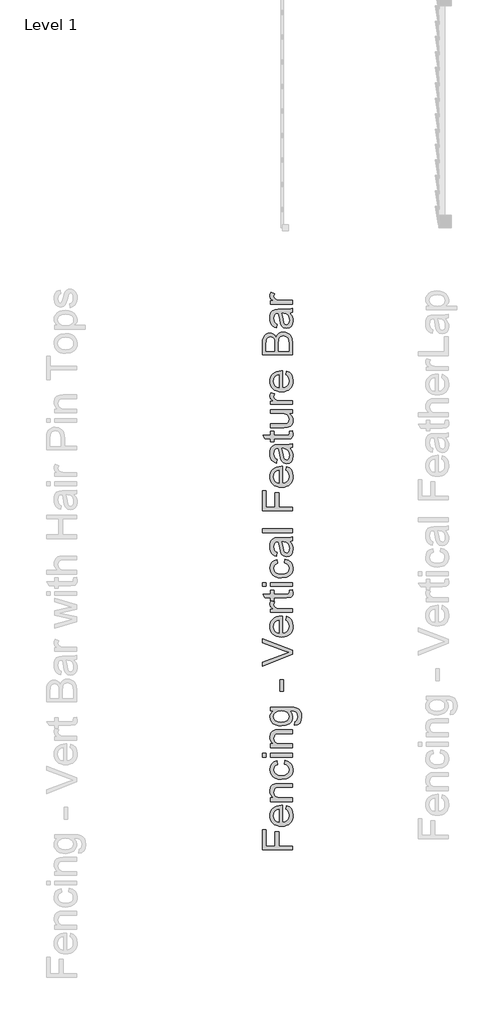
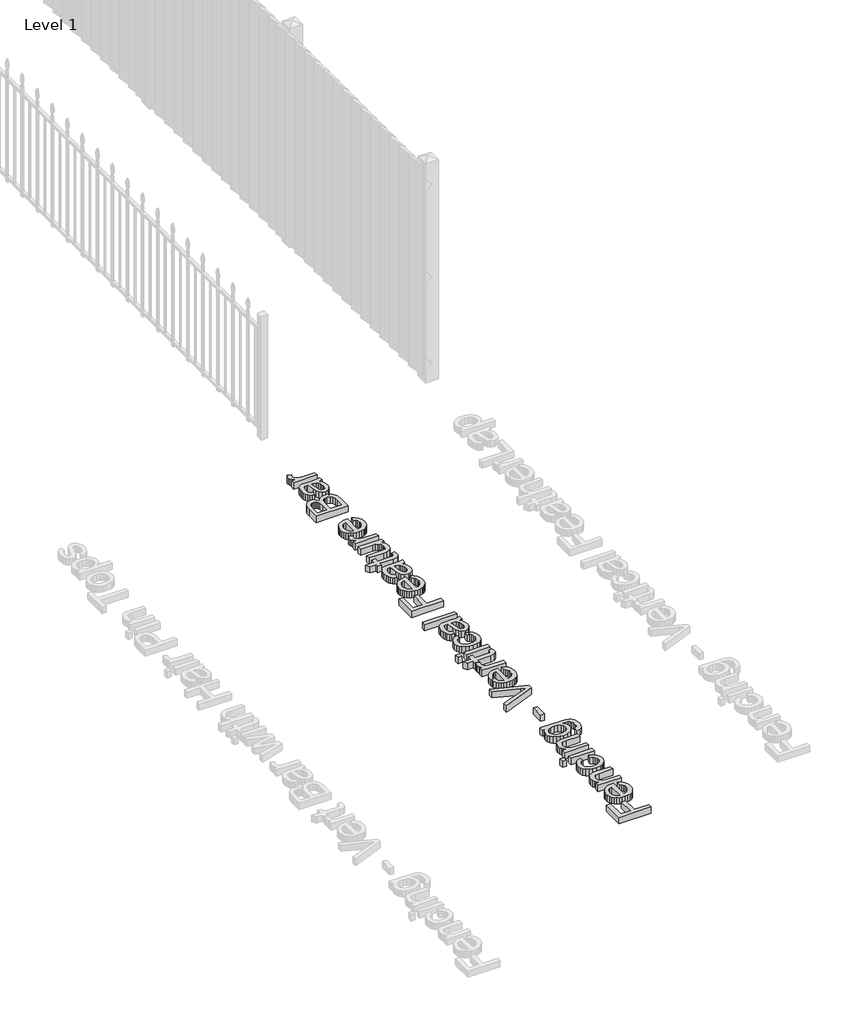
# One storey, part 3 of 7: 1 proxy.
"""IFC4 building model written with IfcOpenShell, lengths in millimetres."""

from ifc_helpers import new_model, si_unit, origin, origin_with_axes, place, context, project, spatial, polyline, outline, extrude, element, save

model = new_model("IFC4")

# Units and contexts
model_context = context("Model", 3, world=origin())
ifc_project = project(units=[si_unit("LENGTHUNIT", "METRE", prefix="MILLI")], contexts=[model_context])

# Site, building, storey
site = spatial("IfcSite", under=ifc_project)
building = spatial("IfcBuilding", under=site)
storey = spatial("IfcBuildingStorey", under=building, Name="Level 1", Elevation=0.0)

# Proxy
placement = place(None, origin())
element("IfcBuildingElementProxy", 1, Name="250mm Arial", ObjectType="250mm Arial", at=placement, inside=storey, context=model_context, shape_type="SweptSolid", body=[
    extrude(outline(polyline([(46257.1337932, -61539.7653793), (46010.9799471, -61539.7653793), (46010.9799471, -61374.380764), (46041.7491778, -61374.380764), (46041.7491778, -61508.9961486), (46114.8261009, -61508.9961486), (46114.8261009, -61393.6115332), (46145.5953317, -61393.6115332), (46145.5953317, -61508.9961486), (46257.1337932, -61508.9961486), (46257.1337932, -61539.7653793)])), origin_with_axes(), (0.0, 0.0, 1.0), 50.8),
    extrude(outline(polyline([(46203.2876394, -61209.3567255), (46207.1337932, -61179.1884563), (46229.8651634, -61190.0583481), (46246.8573509, -61207.4036005), (46257.449298, -61230.8335885), (46260.9799471, -61259.957687), (46259.4568852, -61279.0494839), (46254.8876995, -61296.0604515), (46247.27239, -61310.9905897), (46236.6109567, -61323.8398986), (46223.2001244, -61334.172681), (46207.3366177, -61341.5532399), (46189.0204369, -61345.9815753), (46168.2515817, -61347.457687), (46146.7784747, -61345.9665512), (46127.8519423, -61341.4931438), (46111.4719843, -61334.0374647), (46097.6386009, -61323.599514), (46086.6485168, -61310.7840091), (46078.7984567, -61296.1956678), (46074.0884206, -61279.8344899), (46072.5184086, -61261.7004755), (46074.0846646, -61244.1505206), (46078.7834327, -61228.2795019), (46086.6147127, -61214.0874196), (46097.5785048, -61201.5742736), (46111.3818401, -61191.3598054), (46127.73175, -61184.0637567), (46146.6282343, -61179.6861275), (46168.0712932, -61178.2269178), (46176.3645625, -61178.4072063), (46176.3645625, -61316.6884563), (46199.3964134, -61311.3624346), (46216.3285048, -61298.990139), (46226.7401634, -61281.1340692), (46230.2107163, -61259.3567255), (46228.6031442, -61242.9805236), (46223.7804278, -61229.1884563), (46215.4420865, -61217.9805236), (46203.2876394, -61209.3567255)]), holes=[polyline([(46145.5953317, -61316.6884563), (46145.5953317, -61208.9961486), (46129.3393221, -61213.1578072), (46117.7107163, -61221.3158601), (46106.8934086, -61239.254562), (46103.2876394, -61261.8206678), (46106.1647427, -61282.5613529), (46114.7960528, -61299.7112928), (46128.2500793, -61311.6328673), (46145.5953317, -61316.6884563)])]), origin_with_axes(), (0.0, 0.0, 1.0), 50.8),
    extrude(outline(polyline([(46257.1337932, -61147.457687), (46076.3645625, -61147.457687), (46076.3645625, -61116.6884563), (46101.6049471, -61116.6884563), (46088.8795865, -61105.9988529), (46079.7900432, -61093.160812), (46074.3363173, -61078.1743337), (46072.5184086, -61061.0394178), (46078.3777836, -61031.9829274), (46085.153625, -61020.3993938), (46093.762399, -61012.1511966), (46116.3886009, -61002.926437), (46146.1361971, -61001.3038409), (46257.1337932, -61001.3038409), (46257.1337932, -61032.0730716), (46150.2828317, -61032.0730716), (46123.059274, -61035.6187447), (46114.9538052, -61040.5240933), (46108.6662452, -61048.1487928), (46103.2876394, -61069.2725909), (46106.3074711, -61087.293925), (46115.3669663, -61102.6560043), (46132.8699711, -61113.1803433), (46161.2203317, -61116.6884563), (46257.1337932, -61116.6884563), (46257.1337932, -61147.457687)])), origin_with_axes(), (0.0, 0.0, 1.0), 50.8),
    extrude(outline(polyline([(46191.7491778, -60843.6115332), (46195.5953317, -60812.8423024), (46222.9616177, -60821.4210284), (46243.6422067, -60837.5418216), (46256.645512, -60859.6872543), (46260.9799471, -60886.3398986), (46259.4681532, -60903.5968847), (46254.9327716, -60919.0697664), (46247.3738022, -60932.7585434), (46236.7912452, -60944.6632159), (46223.3841688, -60954.2992585), (46207.3516418, -60961.1821462), (46167.4102355, -60966.6884563), (46140.0289254, -60964.3371942), (46116.2984567, -60957.2834082), (46097.1352956, -60945.4144178), (46083.4559086, -60928.6175428), (46075.2527836, -60908.5228914), (46072.5184086, -60886.7605716), (46076.2744182, -60860.7614731), (46087.5424471, -60839.9757159), (46105.7215336, -60825.0643577), (46130.2107163, -60816.6884563), (46134.0568702, -60847.457687), (46120.6328918, -60853.0391173), (46111.0099952, -60861.7305236), (46105.2182283, -60873.0511366), (46103.2876394, -60886.520187), (46107.0887211, -60906.4045019), (46118.4919663, -60922.1872543), (46138.1133605, -60932.4862327), (46166.5688894, -60935.9192255), (46195.4075312, -60932.5613529), (46215.0965336, -60922.4877351), (46226.4321706, -60906.9904394), (46230.2107163, -60887.3615332), (46227.8519423, -60871.4285404), (46220.7756202, -60858.365139), (46208.8014615, -60848.8624346), (46191.7491778, -60843.6115332)])), origin_with_axes(), (0.0, 0.0, 1.0), 50.8),
    extrude(outline(polyline([(46041.7491778, -60785.9192255), (46010.9799471, -60785.9192255), (46010.9799471, -60755.1499947), (46041.7491778, -60755.1499947), (46041.7491778, -60785.9192255)])), origin_with_axes(), (0.0, 0.0, 1.0), 50.8),
    extrude(outline(polyline([(46257.1337932, -60785.9192255), (46076.3645625, -60785.9192255), (46076.3645625, -60755.1499947), (46257.1337932, -60755.1499947), (46257.1337932, -60785.9192255)])), origin_with_axes(), (0.0, 0.0, 1.0), 50.8),
    extrude(outline(polyline([(46257.1337932, -60708.9961486), (46076.3645625, -60708.9961486), (46076.3645625, -60678.2269178), (46101.6049471, -60678.2269178), (46088.8795865, -60667.5373144), (46079.7900432, -60654.6992736), (46074.3363173, -60639.7127952), (46072.5184086, -60622.5778793), (46078.3777836, -60593.521389), (46085.153625, -60581.9378553), (46093.762399, -60573.6896582), (46116.3886009, -60564.4648986), (46146.1361971, -60562.8423024), (46257.1337932, -60562.8423024), (46257.1337932, -60593.6115332), (46150.2828317, -60593.6115332), (46123.059274, -60597.1572063), (46114.9538052, -60602.0625548), (46108.6662452, -60609.6872543), (46103.2876394, -60630.8110524), (46106.3074711, -60648.8323866), (46115.3669663, -60664.1944659), (46132.8699711, -60674.7188048), (46161.2203317, -60678.2269178), (46257.1337932, -60678.2269178), (46257.1337932, -60708.9961486)])), origin_with_axes(), (0.0, 0.0, 1.0), 50.8),
    extrude(outline(polyline([(46272.5184086, -60528.2269178), (46276.3645625, -60497.457687), (46285.9799471, -60494.0622543), (46292.590524, -60487.4817255), (46297.7287452, -60474.5460284), (46299.4414855, -60457.613937), (46297.5033846, -60439.5550428), (46291.6890817, -60426.1235524), (46282.3741778, -60416.8086486), (46269.934274, -60411.099514), (46234.0568702, -60408.9961486), (46251.3645625, -60430.660812), (46257.1337932, -60457.0730716), (46255.4548569, -60473.9431888), (46250.418048, -60488.7963289), (46242.0233665, -60501.6324917), (46230.2708125, -60512.4516774), (46200.7335528, -60527.1677231), (46165.8477355, -60532.0730716), (46141.0054879, -60529.87205), (46118.1614375, -60523.2689851), (46098.8029639, -60512.4967495), (46084.4174471, -60497.7882159), (46075.4931682, -60479.6466894), (46072.5184086, -60458.5754755), (46074.2011009, -60444.1862027), (46079.2491778, -60431.1265572), (46087.6626394, -60419.3965392), (46099.4414855, -60408.9961486), (46076.3645625, -60408.9961486), (46076.3645625, -60378.2269178), (46232.434274, -60378.2269178), (46268.4694302, -60380.3302832), (46292.199899, -60386.6403793), (46307.9375793, -60397.5102712), (46319.9943702, -60413.2930236), (46327.6566298, -60433.6430837), (46330.2107163, -60458.2148986), (46326.6124591, -60486.8432039), (46315.8176875, -60509.3867736), (46297.7963533, -60523.8474106), (46272.5184086, -60528.2269178)]), holes=[polyline([(46163.7443702, -60501.3038409), (46191.9670264, -60498.0210885), (46211.3705721, -60488.1728313), (46222.6160649, -60473.3666414), (46226.3645625, -60455.2100909), (46222.6386009, -60437.1887567), (46211.4607163, -60422.3074466), (46192.3050673, -60412.3239731), (46164.6458125, -60408.9961486), (46137.9706322, -60412.4216293), (46118.762399, -60422.6980716), (46107.1563293, -60437.7972303), (46103.2876394, -60455.6908601), (46107.0962331, -60473.2614731), (46118.5220144, -60487.9925428), (46137.4447908, -60497.9760164), (46163.7443702, -60501.3038409)])]), origin_with_axes(), (0.0, 0.0, 1.0), 50.8),
    extrude(outline(polyline([(46184.0568702, -60251.3038409), (46153.2876394, -60251.3038409), (46153.2876394, -60155.1499947), (46184.0568702, -60155.1499947), (46184.0568702, -60251.3038409)])), origin_with_axes(), (0.0, 0.0, 1.0), 50.8),
    extrude(outline(polyline([(46257.1337932, -59947.818264), (46010.9799471, -60045.7749947), (46010.9799471, -60012.8423024), (46188.3236971, -59947.2773986), (46228.2876394, -59933.9961486), (46188.3236971, -59920.895187), (46010.9799471, -59855.1499947), (46010.9799471, -59822.2173024), (46257.1337932, -59916.0273986), (46257.1337932, -59947.818264)])), origin_with_axes(), (0.0, 0.0, 1.0), 50.8),
    extrude(outline(polyline([(46203.2876394, -59670.895187), (46207.1337932, -59640.7269178), (46229.8651634, -59651.5968096), (46246.8573509, -59668.942062), (46257.449298, -59692.37205), (46260.9799471, -59721.4961486), (46259.4568852, -59740.5879454), (46254.8876995, -59757.598913), (46247.27239, -59772.5290512), (46236.6109567, -59785.3783601), (46223.2001244, -59795.7111426), (46207.3366177, -59803.0917015), (46189.0204369, -59807.5200368), (46168.2515817, -59808.9961486), (46146.7784747, -59807.5050128), (46127.8519423, -59803.0316053), (46111.4719843, -59795.5759262), (46097.6386009, -59785.1379755), (46086.6485168, -59772.3224707), (46078.7984567, -59757.7341293), (46074.0884206, -59741.3729515), (46072.5184086, -59723.238937), (46074.0846646, -59705.6889821), (46078.7834327, -59689.8179635), (46086.6147127, -59675.6258811), (46097.5785048, -59663.1127351), (46111.3818401, -59652.898267), (46127.73175, -59645.6022183), (46146.6282343, -59641.2245891), (46168.0712932, -59639.7653793), (46176.3645625, -59639.9456678), (46176.3645625, -59778.2269178), (46199.3964134, -59772.9008962), (46216.3285048, -59760.5286005), (46226.7401634, -59742.6725308), (46230.2107163, -59720.895187), (46228.6031442, -59704.5189851), (46223.7804278, -59690.7269178), (46215.4420865, -59679.5189851), (46203.2876394, -59670.895187)]), holes=[polyline([(46145.5953317, -59778.2269178), (46145.5953317, -59670.5346101), (46129.3393221, -59674.6962688), (46117.7107163, -59682.8543216), (46106.8934086, -59700.7930236), (46103.2876394, -59723.3591293), (46106.1647427, -59744.0998144), (46114.7960528, -59761.2497543), (46128.2500793, -59773.1713289), (46145.5953317, -59778.2269178)])]), origin_with_axes(), (0.0, 0.0, 1.0), 50.8),
    extrude(outline(polyline([(46257.1337932, -59608.9961486), (46076.3645625, -59608.9961486), (46076.3645625, -59582.0730716), (46103.1073509, -59582.0730716), (46087.6025432, -59572.1271582), (46078.4679278, -59562.9624947), (46072.5184086, -59543.7317255), (46074.8922067, -59528.4072063), (46082.0136009, -59512.8423024), (46109.5977355, -59523.1187447), (46103.2876394, -59544.7533601), (46104.8050673, -59553.9405596), (46109.3573509, -59562.1511966), (46126.184274, -59573.238937), (46162.121774, -59578.2269178), (46257.1337932, -59578.2269178), (46257.1337932, -59608.9961486)])), origin_with_axes(), (0.0, 0.0, 1.0), 50.8),
    extrude(outline(polyline([(46231.4727355, -59428.2269178), (46258.0352355, -59424.380764), (46260.9799471, -59447.3975909), (46259.7029038, -59462.1662207), (46255.871774, -59473.1788409), (46242.4703317, -59486.0394178), (46207.5544663, -59489.7653793), (46107.1337932, -59489.7653793), (46107.1337932, -59512.8423024), (46076.3645625, -59512.8423024), (46076.3645625, -59489.7653793), (46032.434274, -59489.7653793), (46014.3453317, -59458.9961486), (46076.3645625, -59458.9961486), (46076.3645625, -59428.2269178), (46107.1337932, -59428.2269178), (46107.1337932, -59458.9961486), (46206.653024, -59458.9961486), (46222.5184086, -59457.3735524), (46228.137399, -59452.115139), (46230.2107163, -59441.6283601), (46231.4727355, -59428.2269178)])), origin_with_axes(), (0.0, 0.0, 1.0), 50.8),
    extrude(outline(polyline([(46041.7491778, -59397.457687), (46010.9799471, -59397.457687), (46010.9799471, -59366.6884563), (46041.7491778, -59366.6884563), (46041.7491778, -59397.457687)])), origin_with_axes(), (0.0, 0.0, 1.0), 50.8),
    extrude(outline(polyline([(46257.1337932, -59397.457687), (46076.3645625, -59397.457687), (46076.3645625, -59366.6884563), (46257.1337932, -59366.6884563), (46257.1337932, -59397.457687)])), origin_with_axes(), (0.0, 0.0, 1.0), 50.8),
    extrude(outline(polyline([(46191.7491778, -59205.1499947), (46195.5953317, -59174.380764), (46222.9616177, -59182.9594899), (46243.6422067, -59199.0802832), (46256.645512, -59221.2257159), (46260.9799471, -59247.8783601), (46259.4681532, -59265.1353463), (46254.9327716, -59280.6082279), (46247.3738022, -59294.2970049), (46236.7912452, -59306.2016774), (46223.3841688, -59315.8377201), (46207.3516418, -59322.7206077), (46167.4102355, -59328.2269178), (46140.0289254, -59325.8756558), (46116.2984567, -59318.8218697), (46097.1352956, -59306.9528793), (46083.4559086, -59290.1560043), (46075.2527836, -59270.0613529), (46072.5184086, -59248.2990332), (46076.2744182, -59222.2999346), (46087.5424471, -59201.5141774), (46105.7215336, -59186.6028192), (46130.2107163, -59178.2269178), (46134.0568702, -59208.9961486), (46120.6328918, -59214.5775789), (46111.0099952, -59223.2689851), (46105.2182283, -59234.5895981), (46103.2876394, -59248.0586486), (46107.0887211, -59267.9429635), (46118.4919663, -59283.7257159), (46138.1133605, -59294.0246942), (46166.5688894, -59297.457687), (46195.4075312, -59294.0998144), (46215.0965336, -59284.0261966), (46226.4321706, -59268.528901), (46230.2107163, -59248.8999947), (46227.8519423, -59232.9670019), (46220.7756202, -59219.9036005), (46208.8014615, -59210.4008962), (46191.7491778, -59205.1499947)])), origin_with_axes(), (0.0, 0.0, 1.0), 50.8),
    extrude(outline(polyline([(46234.0568702, -59032.0730716), (46246.6620384, -59046.7740933), (46254.9102355, -59061.910812), (46259.4625192, -59077.8287808), (46260.9799471, -59094.8735524), (46257.3291057, -59120.5871942), (46246.3765817, -59139.5550428), (46229.7449711, -59151.2512567), (46209.0568702, -59155.1499947), (46184.7179278, -59149.2605716), (46167.0496586, -59133.785812), (46156.9535048, -59112.2413409), (46152.3261009, -59085.6187447), (46141.7491778, -59032.2533601), (46134.8982163, -59032.0730716), (46121.1662452, -59034.1914611), (46112.1818702, -59040.5466293), (46105.5111971, -59054.7593697), (46103.2876394, -59074.5610524), (46104.7675072, -59092.8903793), (46109.2071105, -59105.6908601), (46117.4177476, -59114.4198265), (46130.2107163, -59120.5346101), (46126.3645625, -59151.3038409), (46109.5376394, -59145.9627952), (46096.3164855, -59137.9925428), (46086.2053077, -59126.6493938), (46078.7083125, -59111.1896582), (46074.0658846, -59092.2819058), (46072.5184086, -59070.5947063), (46073.8855961, -59049.793925), (46077.9871586, -59033.3050428), (46084.1545264, -59020.872651), (46091.7191298, -59012.2413409), (46112.6025432, -59002.8062447), (46139.5256202, -59001.3038409), (46177.8068702, -59001.3038409), (46231.262399, -58999.7413409), (46257.1337932, -58993.6115332), (46257.1337932, -59024.380764), (46234.0568702, -59032.0730716)]), holes=[polyline([(46172.5184086, -59032.0730716), (46181.9535048, -59081.7124947), (46186.9414855, -59108.1848505), (46195.0544663, -59120.1740332), (46206.8934086, -59124.380764), (46216.043048, -59122.0895981), (46223.5400432, -59115.2161005), (46228.543048, -59103.9105116), (46230.2107163, -59088.3230716), (46228.3702716, -59071.7966293), (46222.8489375, -59057.193264), (46214.7134206, -59045.3543216), (46205.0304278, -59037.1211486), (46181.2323509, -59032.2533601), (46172.5184086, -59032.0730716)])]), origin_with_axes(), (0.0, 0.0, 1.0), 50.8),
    extrude(outline(polyline([(46257.1337932, -58958.9961486), (46010.9799471, -58958.9961486), (46010.9799471, -58928.2269178), (46257.1337932, -58928.2269178), (46257.1337932, -58958.9961486)])), origin_with_axes(), (0.0, 0.0, 1.0), 50.8),
    extrude(outline(polyline([(46257.1337932, -58782.0730716), (46010.9799471, -58782.0730716), (46010.9799471, -58616.6884563), (46041.7491778, -58616.6884563), (46041.7491778, -58751.3038409), (46114.8261009, -58751.3038409), (46114.8261009, -58635.9192255), (46145.5953317, -58635.9192255), (46145.5953317, -58751.3038409), (46257.1337932, -58751.3038409), (46257.1337932, -58782.0730716)])), origin_with_axes(), (0.0, 0.0, 1.0), 50.8),
    extrude(outline(polyline([(46203.2876394, -58451.6644178), (46207.1337932, -58421.4961486), (46229.8651634, -58432.3660404), (46246.8573509, -58449.7112928), (46257.449298, -58473.1412808), (46260.9799471, -58502.2653793), (46259.4568852, -58521.3571762), (46254.8876995, -58538.3681438), (46247.27239, -58553.298282), (46236.6109567, -58566.1475909), (46223.2001244, -58576.4803733), (46207.3366177, -58583.8609322), (46189.0204369, -58588.2892676), (46168.2515817, -58589.7653793), (46146.7784747, -58588.2742435), (46127.8519423, -58583.8008361), (46111.4719843, -58576.345157), (46097.6386009, -58565.9072063), (46086.6485168, -58553.0917015), (46078.7984567, -58538.5033601), (46074.0884206, -58522.1421822), (46072.5184086, -58504.0081678), (46074.0846646, -58486.4582129), (46078.7834327, -58470.5871942), (46086.6147127, -58456.3951119), (46097.5785048, -58443.8819659), (46111.3818401, -58433.6674977), (46127.73175, -58426.3714491), (46146.6282343, -58421.9938198), (46168.0712932, -58420.5346101), (46176.3645625, -58420.7148986), (46176.3645625, -58558.9961486), (46199.3964134, -58553.6701269), (46216.3285048, -58541.2978313), (46226.7401634, -58523.4417616), (46230.2107163, -58501.6644178), (46228.6031442, -58485.2882159), (46223.7804278, -58471.4961486), (46215.4420865, -58460.2882159), (46203.2876394, -58451.6644178)]), holes=[polyline([(46145.5953317, -58558.9961486), (46145.5953317, -58451.3038409), (46129.3393221, -58455.4654995), (46117.7107163, -58463.6235524), (46106.8934086, -58481.5622543), (46103.2876394, -58504.1283601), (46106.1647427, -58524.8690452), (46114.7960528, -58542.0189851), (46128.2500793, -58553.9405596), (46145.5953317, -58558.9961486)])]), origin_with_axes(), (0.0, 0.0, 1.0), 50.8),
    extrude(outline(polyline([(46234.0568702, -58274.380764), (46246.6620384, -58289.0817856), (46254.9102355, -58304.2185043), (46259.4625192, -58320.1364731), (46260.9799471, -58337.1812447), (46257.3291057, -58362.8948866), (46246.3765817, -58381.8627351), (46229.7449711, -58393.5589491), (46209.0568702, -58397.457687), (46184.7179278, -58391.568264), (46167.0496586, -58376.0935043), (46156.9535048, -58354.5490332), (46152.3261009, -58327.926437), (46141.7491778, -58274.5610524), (46134.8982163, -58274.380764), (46121.1662452, -58276.4991534), (46112.1818702, -58282.8543216), (46105.5111971, -58297.067062), (46103.2876394, -58316.8687447), (46104.7675072, -58335.1980716), (46109.2071105, -58347.9985524), (46117.4177476, -58356.7275188), (46130.2107163, -58362.8423024), (46126.3645625, -58393.6115332), (46109.5376394, -58388.2704875), (46096.3164855, -58380.3002351), (46086.2053077, -58368.9570861), (46078.7083125, -58353.4973505), (46074.0658846, -58334.5895981), (46072.5184086, -58312.9023986), (46073.8855961, -58292.1016173), (46077.9871586, -58275.6127351), (46084.1545264, -58263.1803433), (46091.7191298, -58254.5490332), (46112.6025432, -58245.113937), (46139.5256202, -58243.6115332), (46177.8068702, -58243.6115332), (46231.262399, -58242.0490332), (46257.1337932, -58235.9192255), (46257.1337932, -58266.6884563), (46234.0568702, -58274.380764)]), holes=[polyline([(46172.5184086, -58274.380764), (46181.9535048, -58324.020187), (46186.9414855, -58350.4925428), (46195.0544663, -58362.4817255), (46206.8934086, -58366.6884563), (46216.043048, -58364.3972904), (46223.5400432, -58357.5237928), (46228.543048, -58346.2182039), (46230.2107163, -58330.630764), (46228.3702716, -58314.1043216), (46222.8489375, -58299.5009563), (46214.7134206, -58287.662014), (46205.0304278, -58279.4288409), (46181.2323509, -58274.5610524), (46172.5184086, -58274.380764)])]), origin_with_axes(), (0.0, 0.0, 1.0), 50.8),
    extrude(outline(polyline([(46231.4727355, -58135.9192255), (46258.0352355, -58132.0730716), (46260.9799471, -58155.0898986), (46259.7029038, -58169.8585284), (46255.871774, -58180.8711486), (46242.4703317, -58193.7317255), (46207.5544663, -58197.457687), (46107.1337932, -58197.457687), (46107.1337932, -58220.5346101), (46076.3645625, -58220.5346101), (46076.3645625, -58197.457687), (46032.434274, -58197.457687), (46014.3453317, -58166.6884563), (46076.3645625, -58166.6884563), (46076.3645625, -58135.9192255), (46107.1337932, -58135.9192255), (46107.1337932, -58166.6884563), (46206.653024, -58166.6884563), (46222.5184086, -58165.0658601), (46228.137399, -58159.8074466), (46230.2107163, -58149.3206678), (46231.4727355, -58135.9192255)])), origin_with_axes(), (0.0, 0.0, 1.0), 50.8),
    extrude(outline(polyline([(46257.1337932, -57989.7653793), (46226.0640817, -57989.7653793), (46241.3397728, -58000.8981918), (46252.2509807, -58013.863937), (46258.7977055, -58028.6626149), (46260.9799471, -58045.2942255), (46259.4474952, -58060.2807039), (46254.8501394, -58074.2305236), (46247.9390817, -58085.9342495), (46239.465524, -58094.1824466), (46216.809274, -58103.3471101), (46188.2035048, -58105.1499947), (46076.3645625, -58105.1499947), (46076.3645625, -58074.380764), (46173.7203317, -58074.380764), (46205.090524, -58072.5177832), (46215.5547668, -58068.0331077), (46223.5099952, -58060.348312), (46228.535536, -58049.9742135), (46230.2107163, -58037.4216293), (46228.4979759, -58024.1478914), (46223.3597548, -58011.7305236), (46215.2693101, -58001.4916414), (46204.699899, -57994.7533601), (46190.2242379, -57991.0123745), (46170.4150432, -57989.7653793), (46076.3645625, -57989.7653793), (46076.3645625, -57958.9961486), (46257.1337932, -57958.9961486), (46257.1337932, -57989.7653793)])), origin_with_axes(), (0.0, 0.0, 1.0), 50.8),
    extrude(outline(polyline([(46257.1337932, -57916.6884563), (46076.3645625, -57916.6884563), (46076.3645625, -57889.7653793), (46103.1073509, -57889.7653793), (46087.6025432, -57879.8194659), (46078.4679278, -57870.6548024), (46072.5184086, -57851.4240332), (46074.8922067, -57836.099514), (46082.0136009, -57820.5346101), (46109.5977355, -57830.8110524), (46103.2876394, -57852.4456678), (46104.8050673, -57861.6328673), (46109.3573509, -57869.8435043), (46126.184274, -57880.9312447), (46162.121774, -57885.9192255), (46257.1337932, -57885.9192255), (46257.1337932, -57916.6884563)])), origin_with_axes(), (0.0, 0.0, 1.0), 50.8),
    extrude(outline(polyline([(46203.2876394, -57674.7413409), (46207.1337932, -57644.5730716), (46229.8651634, -57655.4429635), (46246.8573509, -57672.7882159), (46257.449298, -57696.2182039), (46260.9799471, -57725.3423024), (46259.4568852, -57744.4340993), (46254.8876995, -57761.4450668), (46247.27239, -57776.3752051), (46236.6109567, -57789.224514), (46223.2001244, -57799.5572964), (46207.3366177, -57806.9378553), (46189.0204369, -57811.3661906), (46168.2515817, -57812.8423024), (46146.7784747, -57811.3511666), (46127.8519423, -57806.8777591), (46111.4719843, -57799.4220801), (46097.6386009, -57788.9841293), (46086.6485168, -57776.1686245), (46078.7984567, -57761.5802832), (46074.0884206, -57745.2191053), (46072.5184086, -57727.0850909), (46074.0846646, -57709.5351359), (46078.7834327, -57693.6641173), (46086.6147127, -57679.472035), (46097.5785048, -57666.958889), (46111.3818401, -57656.7444208), (46127.73175, -57649.4483721), (46146.6282343, -57645.0707429), (46168.0712932, -57643.6115332), (46176.3645625, -57643.7918216), (46176.3645625, -57782.0730716), (46199.3964134, -57776.74705), (46216.3285048, -57764.3747543), (46226.7401634, -57746.5186846), (46230.2107163, -57724.7413409), (46228.6031442, -57708.365139), (46223.7804278, -57694.5730716), (46215.4420865, -57683.365139), (46203.2876394, -57674.7413409)]), holes=[polyline([(46145.5953317, -57782.0730716), (46145.5953317, -57674.380764), (46129.3393221, -57678.5424226), (46117.7107163, -57686.7004755), (46106.8934086, -57704.6391774), (46103.2876394, -57727.2052832), (46106.1647427, -57747.9459683), (46114.7960528, -57765.0959082), (46128.2500793, -57777.0174827), (46145.5953317, -57782.0730716)])]), origin_with_axes(), (0.0, 0.0, 1.0), 50.8),
    extrude(outline(polyline([(46257.1337932, -57512.8423024), (46010.9799471, -57512.8423024), (46010.9799471, -57418.912014), (46012.7903437, -57393.0781798), (46018.2215336, -57372.9084082), (46027.4087331, -57357.4486726), (46040.4871586, -57345.7449466), (46055.871774, -57338.3756558), (46071.9775432, -57335.9192255), (46086.7987572, -57337.9850308), (46100.7335528, -57344.1824466), (46112.9255601, -57354.5565452), (46122.5184086, -57369.1523986), (46131.6229759, -57351.7170019), (46145.4751394, -57338.833889), (46163.1584327, -57330.8786606), (46183.7563894, -57328.2269178), (46200.9213533, -57330.0373144), (46216.8393221, -57335.4685043), (46230.3759807, -57343.5739731), (46240.3970144, -57353.4072063), (46252.8970144, -57380.1800428), (46257.1337932, -57419.6331678), (46257.1337932, -57512.8423024)]), holes=[polyline([(46110.9799471, -57482.0730716), (46110.9799471, -57425.8831678), (46108.3357163, -57393.0706678), (46103.7759206, -57381.5847904), (46096.9474952, -57373.3290813), (46087.9556081, -57368.3486125), (46076.9054278, -57366.6884563), (46066.1782644, -57368.2359322), (46056.8333125, -57372.8783601), (46049.5391418, -57380.4054034), (46044.9643221, -57390.6067255), (46041.7491778, -57430.1499947), (46041.7491778, -57482.0730716), (46110.9799471, -57482.0730716)]), polyline([(46226.3645625, -57482.0730716), (46226.3645625, -57418.9721101), (46225.1626394, -57396.1355716), (46218.4619182, -57376.8146582), (46204.7900432, -57364.0141774), (46184.0568702, -57358.9961486), (46171.1962932, -57360.4685043), (46160.1386009, -57364.8855716), (46151.4922668, -57372.6004154), (46145.8657644, -57383.9661005), (46141.7491778, -57421.9769178), (46141.7491778, -57482.0730716), (46226.3645625, -57482.0730716)])]), origin_with_axes(), (0.0, 0.0, 1.0), 50.8),
    extrude(outline(polyline([(46234.0568702, -57174.380764), (46246.6620384, -57189.0817856), (46254.9102355, -57204.2185043), (46259.4625192, -57220.1364731), (46260.9799471, -57237.1812447), (46257.3291057, -57262.8948866), (46246.3765817, -57281.8627351), (46229.7449711, -57293.5589491), (46209.0568702, -57297.457687), (46184.7179278, -57291.568264), (46167.0496586, -57276.0935043), (46156.9535048, -57254.5490332), (46152.3261009, -57227.926437), (46141.7491778, -57174.5610524), (46134.8982163, -57174.380764), (46121.1662452, -57176.4991534), (46112.1818702, -57182.8543216), (46105.5111971, -57197.067062), (46103.2876394, -57216.8687447), (46104.7675072, -57235.1980716), (46109.2071105, -57247.9985524), (46117.4177476, -57256.7275188), (46130.2107163, -57262.8423024), (46126.3645625, -57293.6115332), (46109.5376394, -57288.2704875), (46096.3164855, -57280.3002351), (46086.2053077, -57268.9570861), (46078.7083125, -57253.4973505), (46074.0658846, -57234.5895981), (46072.5184086, -57212.9023986), (46073.8855961, -57192.1016173), (46077.9871586, -57175.6127351), (46084.1545264, -57163.1803433), (46091.7191298, -57154.5490332), (46112.6025432, -57145.113937), (46139.5256202, -57143.6115332), (46177.8068702, -57143.6115332), (46231.262399, -57142.0490332), (46257.1337932, -57135.9192255), (46257.1337932, -57166.6884563), (46234.0568702, -57174.380764)]), holes=[polyline([(46172.5184086, -57174.380764), (46181.9535048, -57224.020187), (46186.9414855, -57250.4925428), (46195.0544663, -57262.4817255), (46206.8934086, -57266.6884563), (46216.043048, -57264.3972904), (46223.5400432, -57257.5237928), (46228.543048, -57246.2182039), (46230.2107163, -57230.630764), (46228.3702716, -57214.1043216), (46222.8489375, -57199.5009563), (46214.7134206, -57187.662014), (46205.0304278, -57179.4288409), (46181.2323509, -57174.5610524), (46172.5184086, -57174.380764)])]), origin_with_axes(), (0.0, 0.0, 1.0), 50.8),
    extrude(outline(polyline([(46257.1337932, -57101.3038409), (46076.3645625, -57101.3038409), (46076.3645625, -57074.380764), (46103.1073509, -57074.380764), (46087.6025432, -57064.4348505), (46078.4679278, -57055.270187), (46072.5184086, -57036.0394178), (46074.8922067, -57020.7148986), (46082.0136009, -57005.1499947), (46109.5977355, -57015.426437), (46103.2876394, -57037.0610524), (46104.8050673, -57046.2482519), (46109.3573509, -57054.458889), (46126.184274, -57065.5466293), (46162.121774, -57070.5346101), (46257.1337932, -57070.5346101), (46257.1337932, -57101.3038409)])), origin_with_axes(), (0.0, 0.0, 1.0), 50.8),
])

save(model, "model.ifc")
